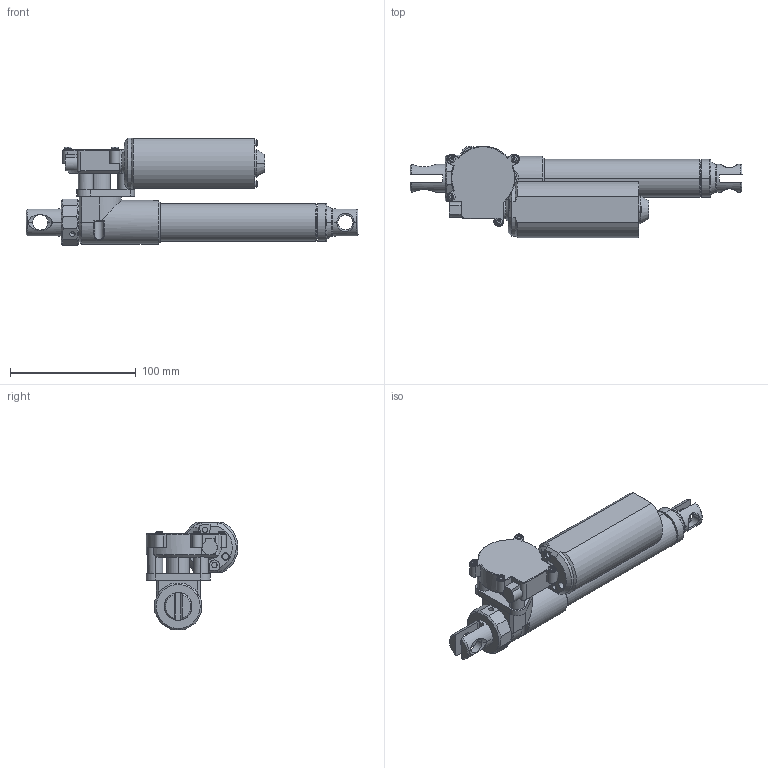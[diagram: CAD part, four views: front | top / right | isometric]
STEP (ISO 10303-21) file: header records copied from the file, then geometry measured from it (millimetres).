
FILE_DESCRIPTION((''),'2;1');
FILE_NAME('MD57-A_ASM','2016-04-19T',('hank'),(''),'PRO/ENGINEER BY PARAMETRIC TECHNOLOGY CORPORATION, 2014200','PRO/ENGINEER BY PARAMETRIC TECHNOLOGY CORPORATION, 2014200','');
FILE_SCHEMA(('CONFIG_CONTROL_DESIGN'));
Length unit declared in the file: millimetre
Products named in the file (3): MD57-STD; INNERTUBE; MD57-A_ASM
Assembly tree (2 placements, depth 2):
  MD57-A_ASM
    MD57-STD
    INNERTUBE
Bounding box: 264.3 x 73.07 x 85.5 mm (x, y, z)
Volume: 389881 mm3; surface area: 82979.5 mm2
Topology: 2 solids, 10 shells, 428 faces, 1075 edges, 691 vertices
Faces by surface type: plane 216, cylinder 130, cone 58, torus 18, bspline 6
Entity records: 14262 total; most frequent: CARTESIAN_POINT 3841, DIRECTION 2185, ORIENTED_EDGE 2150, EDGE_CURVE 1075, AXIS2_PLACEMENT_3D 828, VERTEX_POINT 691, VECTOR 529, LINE 529
